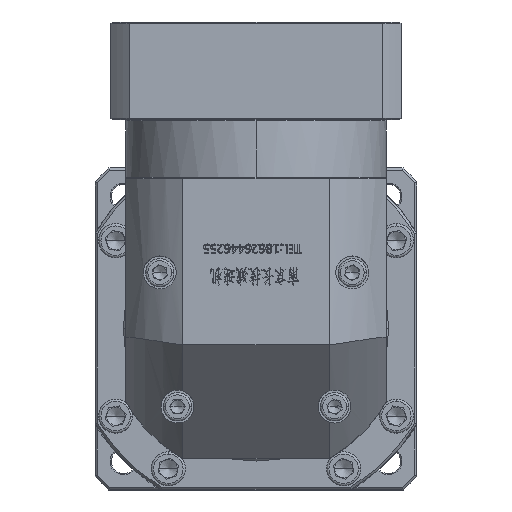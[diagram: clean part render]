
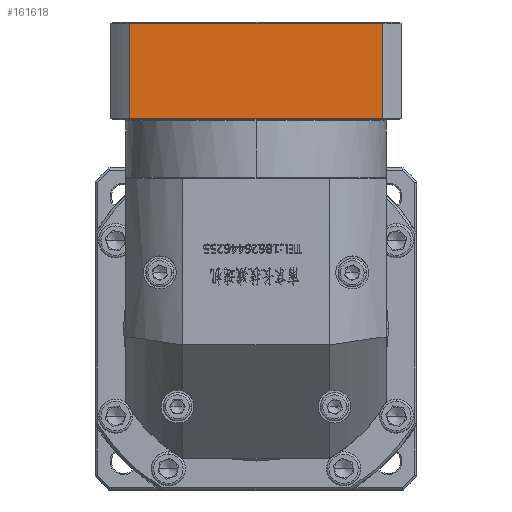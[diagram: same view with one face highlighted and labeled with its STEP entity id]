
A CAD part, top view. The second image highlights one B-rep face of the part: STEP entity #161618.
In plain terms, the highlighted planar face has unit normal (0, 0, 1).
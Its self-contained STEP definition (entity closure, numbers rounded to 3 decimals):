
#6708 = DIRECTION ( 'NONE',  ( -1., 0., 0. ) ) ;
#14441 = VERTEX_POINT ( 'NONE', #121022 ) ;
#21281 = EDGE_CURVE ( 'NONE', #62313, #109697, #23193, .T. ) ;
#22406 = ORIENTED_EDGE ( 'NONE', *, *, #74549, .F. ) ;
#23193 = LINE ( 'NONE', #127935, #127696 ) ;
#29121 = LINE ( 'NONE', #44709, #108123 ) ;
#29179 = DIRECTION ( 'NONE',  ( 0., 0., -1. ) ) ;
#29503 = CARTESIAN_POINT ( 'NONE',  ( -30.51, 136.073, 237.357 ) ) ;
#33362 = CARTESIAN_POINT ( 'NONE',  ( -30.51, 178.073, 237.357 ) ) ;
#34621 = LINE ( 'NONE', #124042, #94239 ) ;
#41504 = VERTEX_POINT ( 'NONE', #164117 ) ;
#44709 = CARTESIAN_POINT ( 'NONE',  ( 81.365, -116.842, 237.357 ) ) ;
#48238 = FACE_OUTER_BOUND ( 'NONE', #142847, .T. ) ;
#54996 = ORIENTED_EDGE ( 'NONE', *, *, #151535, .F. ) ;
#62313 = VERTEX_POINT ( 'NONE', #29503 ) ;
#67447 = DIRECTION ( 'NONE',  ( 1., 0., 0. ) ) ;
#69904 = ORIENTED_EDGE ( 'NONE', *, *, #21281, .F. ) ;
#74549 = EDGE_CURVE ( 'NONE', #14441, #62313, #138364, .T. ) ;
#82073 = EDGE_CURVE ( 'NONE', #41504, #14441, #29121, .T. ) ;
#83993 = DIRECTION ( 'NONE',  ( 1., 0., 0. ) ) ;
#88307 = CARTESIAN_POINT ( 'NONE',  ( -38.573, 136.073, 237.357 ) ) ;
#90278 = DIRECTION ( 'NONE',  ( 0., 1., 0. ) ) ;
#94239 = VECTOR ( 'NONE', #67447, 1000. ) ;
#101975 = VECTOR ( 'NONE', #6708, 1000. ) ;
#108123 = VECTOR ( 'NONE', #155475, 1000. ) ;
#109697 = VERTEX_POINT ( 'NONE', #33362 ) ;
#110822 = CARTESIAN_POINT ( 'NONE',  ( -38.573, 178.573, 237.357 ) ) ;
#121022 = CARTESIAN_POINT ( 'NONE',  ( 81.365, 136.073, 237.357 ) ) ;
#124042 = CARTESIAN_POINT ( 'NONE',  ( -38.573, 178.073, 237.357 ) ) ;
#126892 = AXIS2_PLACEMENT_3D ( 'NONE', #110822, #29179, #83993 ) ;
#127696 = VECTOR ( 'NONE', #90278, 1000. ) ;
#127935 = CARTESIAN_POINT ( 'NONE',  ( -30.51, -116.842, 237.357 ) ) ;
#138364 = LINE ( 'NONE', #88307, #101975 ) ;
#139486 = PLANE ( 'NONE',  #126892 ) ;
#142847 = EDGE_LOOP ( 'NONE', ( #69904, #22406, #156614, #54996 ) ) ;
#151535 = EDGE_CURVE ( 'NONE', #109697, #41504, #34621, .T. ) ;
#155475 = DIRECTION ( 'NONE',  ( 0., -1., 0. ) ) ;
#156614 = ORIENTED_EDGE ( 'NONE', *, *, #82073, .F. ) ;
#161618 = ADVANCED_FACE ( 'NONE', ( #48238 ), #139486, .F. ) ;
#164117 = CARTESIAN_POINT ( 'NONE',  ( 81.365, 178.073, 237.357 ) ) ;
